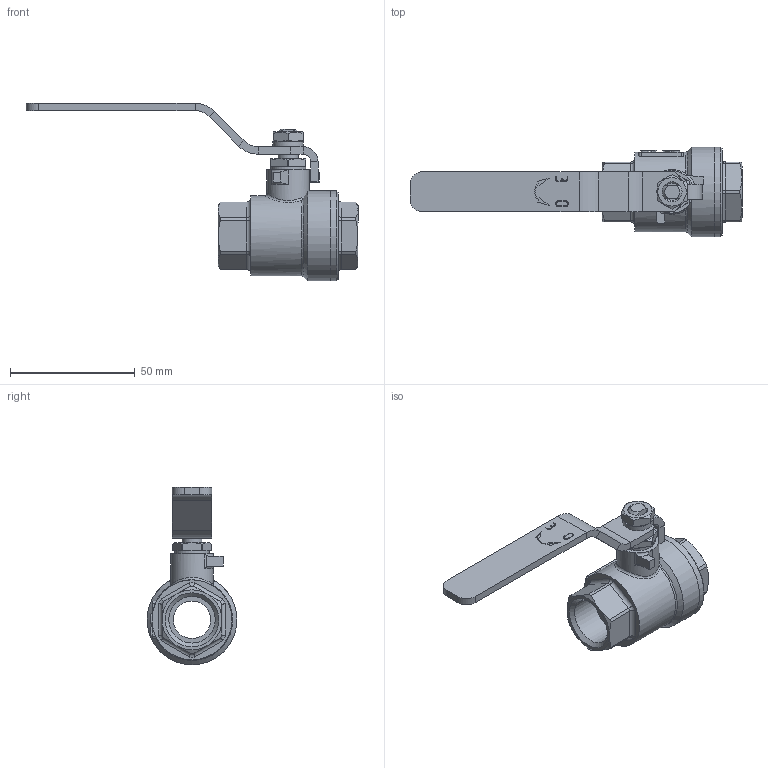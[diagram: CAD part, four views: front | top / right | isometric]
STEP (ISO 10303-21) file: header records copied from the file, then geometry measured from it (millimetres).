
FILE_DESCRIPTION(('STEP AP203'), '1');
FILE_NAME('596-00 Êðàí øàðîâûé ìóôòîâûé DN15 PN 40 ÊØ-15-40', '2026-07-13T05:31:32', (''), (''), 'C3D Converter', 'C3D Toolkit', '');
FILE_SCHEMA(('CONFIG_CONTROL_DESIGN'));
Length unit declared in the file: millimetre
Products named in the file (15): 596.00; 596.00.01; 596.00.01Л; 596.00.02; 596.00.02Л; 596.00.08; 596.00.03; 596.00.07; 596.00.04; 596.00.06; АЗМА.3001.00.00.000.001-01; АЗМА.3001.00.15.000.001; 596.00.09
Assembly tree (15 placements, depth 3):
  596.00
    596.00.01
      596.00.01Л
    596.00.02
      596.00.02Л
    596.00.08
    596.00.03
    596.00.07
    596.00.04
    596.00.06
    (unnamed)
    (unnamed)
    АЗМА.3001.00.00.000.001-01
    АЗМА.3001.00.15.000.001  x2
    596.00.09
Bounding box: 133 x 36 x 71.1 mm (x, y, z)
Volume: 36221.9 mm3; surface area: 27546.8 mm2
Topology: 13 solids, 13 shells, 546 faces, 1373 edges, 878 vertices
Faces by surface type: plane 234, extrusion 157, cylinder 84, cone 42, torus 24, sphere 4, bspline 1
Full cylindrical faces by diameter (mm): 6.917 x1, 8 x3, 8.2 x1, 8.5 x1, 11 x1, 12 x2, 12.3 x1, 12.376 x1, 14 x1, 15 x3, 17 x3, 18.632 x2, 22 x2, 22.1 x2, 27.8 x1, 28.376 x1, 30 x2, 32 x1, 33.5 x2, 36 x2
Entity records: 19979 total; most frequent: CARTESIAN_POINT 6839, ORIENTED_EDGE 2600, DIRECTION 2048, EDGE_CURVE 1300, VERTEX_POINT 871, VECTOR 804, EDGE_LOOP 649, LINE 647
